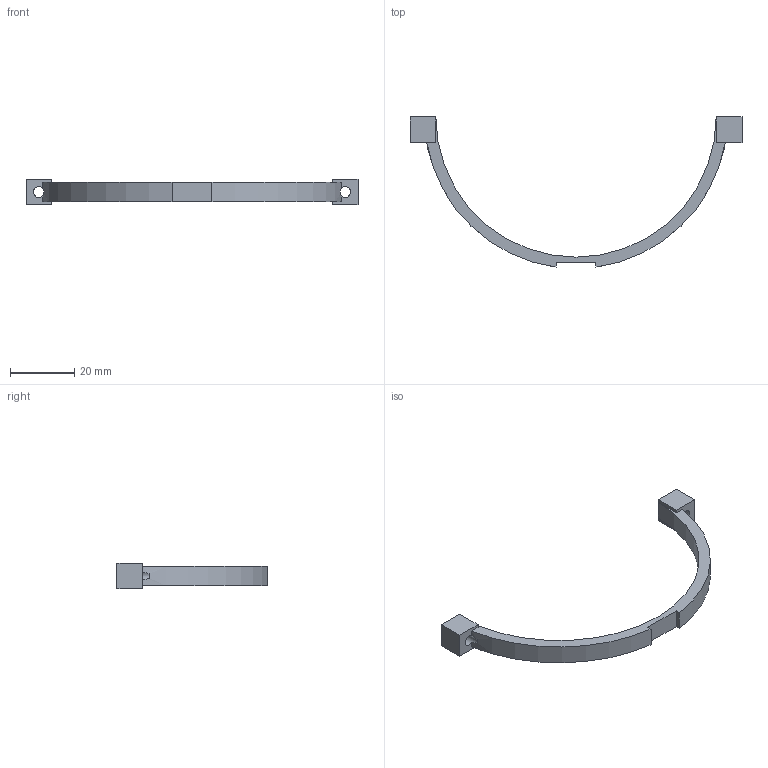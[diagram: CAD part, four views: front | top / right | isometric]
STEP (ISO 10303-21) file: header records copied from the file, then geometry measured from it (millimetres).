
FILE_DESCRIPTION(('FreeCAD Model'),'2;1');
FILE_NAME('Open CASCADE Shape Model','2026-11-06T11:24:15',('FreeCAD'),( 'FreeCAD'),'Open CASCADE STEP processor 7.8','FreeCAD','Unknown');
FILE_SCHEMA(('AUTOMOTIVE_DESIGN { 1 0 10303 214 1 1 1 1 }'));
Length unit declared in the file: millimetre
Products named in the file (1): Open CASCADE STEP translator 7.8 10
Bounding box: 103 x 46.59 x 8 mm (x, y, z)
Volume: 3424.3 mm3; surface area: 3250.2 mm2
Topology: 1 solids, 1 shells, 28 faces, 86 edges, 56 vertices
Faces by surface type: plane 23, cylinder 5
Full cylindrical faces by diameter (mm): 3.4 x2
Entity records: 1010 total; most frequent: CARTESIAN_POINT 215, ORIENTED_EDGE 172, DIRECTION 158, EDGE_CURVE 86, LINE 64, VECTOR 64, VERTEX_POINT 56, AXIS2_PLACEMENT_3D 47
